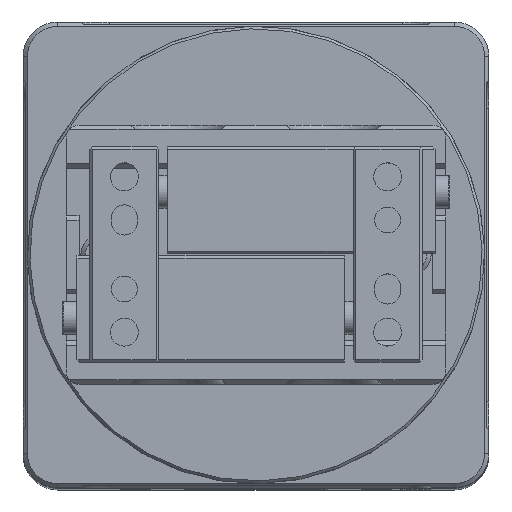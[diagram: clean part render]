
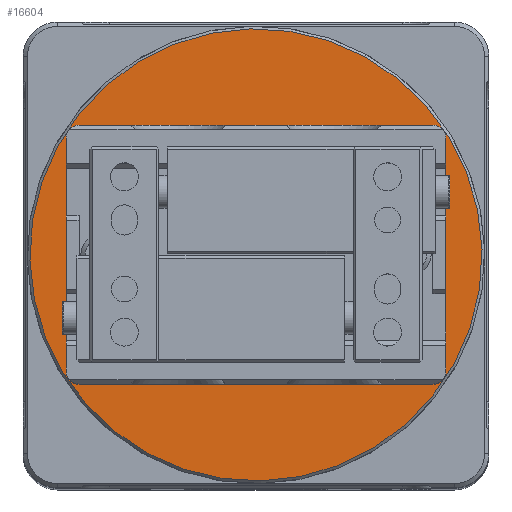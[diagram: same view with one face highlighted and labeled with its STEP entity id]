
A CAD part, top view. The second image highlights one B-rep face of the part: STEP entity #16604.
In plain terms, the highlighted planar face has unit normal (0, 0, 1).
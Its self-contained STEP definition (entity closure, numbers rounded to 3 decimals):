
#14590=CARTESIAN_POINT('Vertex',(-20.5,15.,124.7)) ;
#14616=CARTESIAN_POINT('Vertex',(20.5,15.,124.7)) ;
#14619=CARTESIAN_POINT('Line Origine',(0.,15.,124.7)) ;
#14912=CARTESIAN_POINT('Vertex',(20.5,-15.,124.7)) ;
#14926=CARTESIAN_POINT('Vertex',(-20.5,-15.,124.7)) ;
#14929=CARTESIAN_POINT('Line Origine',(0.,-15.,124.7)) ;
#15100=CARTESIAN_POINT('Vertex',(22.,13.5,124.7)) ;
#15103=CARTESIAN_POINT('Axis2P3D Location',(20.5,13.5,124.7)) ;
#15128=CARTESIAN_POINT('Axis2P3D Location',(20.5,-13.5,124.7)) ;
#15132=CARTESIAN_POINT('Vertex',(22.,-13.5,124.7)) ;
#15160=CARTESIAN_POINT('Axis2P3D Location',(-20.5,13.5,124.7)) ;
#15164=CARTESIAN_POINT('Vertex',(-22.,13.5,124.7)) ;
#16094=CARTESIAN_POINT('Vertex',(-22.,-13.5,124.7)) ;
#16097=CARTESIAN_POINT('Axis2P3D Location',(-20.5,-13.5,124.7)) ;
#16141=CARTESIAN_POINT('Line Origine',(22.,0.,124.7)) ;
#16230=CARTESIAN_POINT('Line Origine',(-22.,0.,124.7)) ;
#16296=CARTESIAN_POINT('Vertex',(12.561,22.993,124.7)) ;
#16299=CARTESIAN_POINT('Axis2P3D Location',(0.,0.,124.7)) ;
#16303=CARTESIAN_POINT('Vertex',(-12.561,-22.993,124.7)) ;
#16330=CARTESIAN_POINT('Axis2P3D Location',(0.,0.,124.7)) ;
#16585=CARTESIAN_POINT('Axis2P3D Location',(0.,26.5,124.7)) ;
#14620=DIRECTION('Vector Direction',(1.,0.,0.)) ;
#14930=DIRECTION('Vector Direction',(-1.,0.,0.)) ;
#15104=DIRECTION('Axis2P3D Direction',(0.,0.,1.)) ;
#15129=DIRECTION('Axis2P3D Direction',(0.,0.,1.)) ;
#15161=DIRECTION('Axis2P3D Direction',(0.,0.,1.)) ;
#16098=DIRECTION('Axis2P3D Direction',(0.,0.,1.)) ;
#16142=DIRECTION('Vector Direction',(0.,-1.,0.)) ;
#16231=DIRECTION('Vector Direction',(0.,1.,0.)) ;
#16300=DIRECTION('Axis2P3D Direction',(0.,0.,-1.)) ;
#16331=DIRECTION('Axis2P3D Direction',(0.,0.,-1.)) ;
#16586=DIRECTION('Axis2P3D Direction',(0.,0.,-1.)) ;
#16587=DIRECTION('Axis2P3D XDirection',(1.,0.,0.)) ;
#15105=AXIS2_PLACEMENT_3D('Circle Axis2P3D',#15103,#15104,$) ;
#15130=AXIS2_PLACEMENT_3D('Circle Axis2P3D',#15128,#15129,$) ;
#15162=AXIS2_PLACEMENT_3D('Circle Axis2P3D',#15160,#15161,$) ;
#16099=AXIS2_PLACEMENT_3D('Circle Axis2P3D',#16097,#16098,$) ;
#16301=AXIS2_PLACEMENT_3D('Circle Axis2P3D',#16299,#16300,$) ;
#16332=AXIS2_PLACEMENT_3D('Circle Axis2P3D',#16330,#16331,$) ;
#16588=AXIS2_PLACEMENT_3D('Plane Axis2P3D',#16585,#16586,#16587) ;
#16591=ORIENTED_EDGE('',*,*,#16334,.F.) ;
#16592=ORIENTED_EDGE('',*,*,#16305,.F.) ;
#16595=ORIENTED_EDGE('',*,*,#16234,.F.) ;
#16596=ORIENTED_EDGE('',*,*,#15166,.F.) ;
#16597=ORIENTED_EDGE('',*,*,#14623,.F.) ;
#16598=ORIENTED_EDGE('',*,*,#15107,.F.) ;
#16599=ORIENTED_EDGE('',*,*,#16145,.F.) ;
#16600=ORIENTED_EDGE('',*,*,#15134,.F.) ;
#16601=ORIENTED_EDGE('',*,*,#14933,.F.) ;
#16602=ORIENTED_EDGE('',*,*,#16101,.F.) ;
#16603=FACE_BOUND('',#16594,.T.) ;
#14621=VECTOR('Line Direction',#14620,1.) ;
#14931=VECTOR('Line Direction',#14930,1.) ;
#16143=VECTOR('Line Direction',#16142,1.) ;
#16232=VECTOR('Line Direction',#16231,1.) ;
#16604=ADVANCED_FACE('\X2\96F64EF651E04F554F53\X0\',(#16593,#16603),#16589,.F.) ;
#15106=CIRCLE('generated circle',#15105,1.5) ;
#15131=CIRCLE('generated circle',#15130,1.5) ;
#15163=CIRCLE('generated circle',#15162,1.5) ;
#16100=CIRCLE('generated circle',#16099,1.5) ;
#16302=CIRCLE('generated circle',#16301,26.2) ;
#16333=CIRCLE('generated circle',#16332,26.2) ;
#14623=EDGE_CURVE('',#14617,#14591,#14622,.F.) ;
#14933=EDGE_CURVE('',#14927,#14913,#14932,.F.) ;
#15107=EDGE_CURVE('',#15101,#14617,#15106,.T.) ;
#15134=EDGE_CURVE('',#14913,#15133,#15131,.T.) ;
#15166=EDGE_CURVE('',#14591,#15165,#15163,.T.) ;
#16101=EDGE_CURVE('',#16095,#14927,#16100,.T.) ;
#16145=EDGE_CURVE('',#15133,#15101,#16144,.F.) ;
#16234=EDGE_CURVE('',#15165,#16095,#16233,.F.) ;
#16305=EDGE_CURVE('',#16297,#16304,#16302,.T.) ;
#16334=EDGE_CURVE('',#16304,#16297,#16333,.T.) ;
#16590=EDGE_LOOP('',(#16591,#16592)) ;
#16594=EDGE_LOOP('',(#16595,#16596,#16597,#16598,#16599,#16600,#16601,#16602)) ;
#16593=FACE_OUTER_BOUND('',#16590,.T.) ;
#14622=LINE('Line',#14619,#14621) ;
#14932=LINE('Line',#14929,#14931) ;
#16144=LINE('Line',#16141,#16143) ;
#16233=LINE('Line',#16230,#16232) ;
#16589=PLANE('Plane',#16588) ;
#14591=VERTEX_POINT('',#14590) ;
#14617=VERTEX_POINT('',#14616) ;
#14913=VERTEX_POINT('',#14912) ;
#14927=VERTEX_POINT('',#14926) ;
#15101=VERTEX_POINT('',#15100) ;
#15133=VERTEX_POINT('',#15132) ;
#15165=VERTEX_POINT('',#15164) ;
#16095=VERTEX_POINT('',#16094) ;
#16297=VERTEX_POINT('',#16296) ;
#16304=VERTEX_POINT('',#16303) ;
